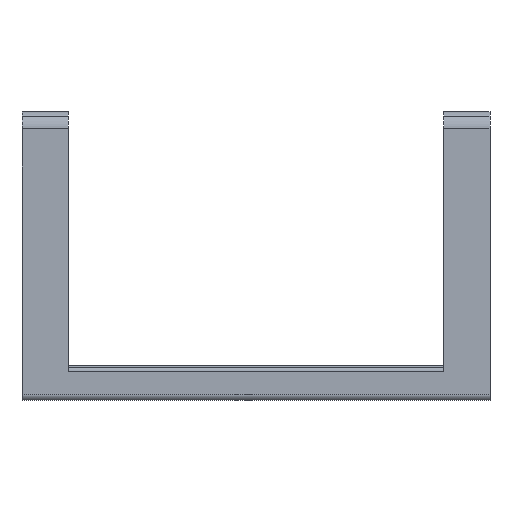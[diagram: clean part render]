
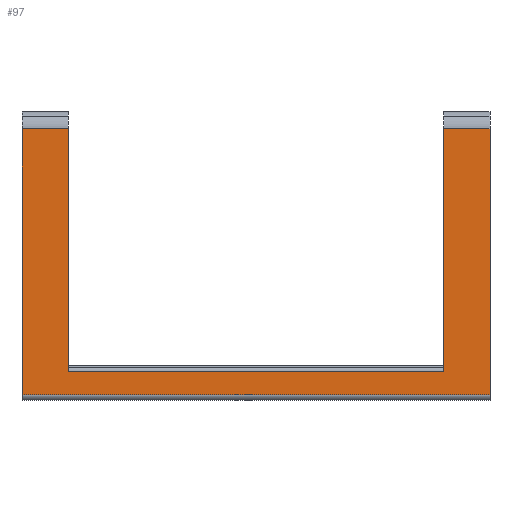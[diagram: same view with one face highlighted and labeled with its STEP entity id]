
A CAD part, front view. The second image highlights one B-rep face of the part: STEP entity #97.
In plain terms, the highlighted planar face has unit normal (0, -1, 0).
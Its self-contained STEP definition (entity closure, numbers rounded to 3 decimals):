
#97=ADVANCED_FACE('',(#227),#228,.T.);
#227=FACE_OUTER_BOUND('',#384,.T.);
#228=PLANE('',#385);
#384=EDGE_LOOP('',(#859,#860,#861,#862,#863,#864,#865,#866));
#385=AXIS2_PLACEMENT_3D('',#867,#868,#869);
#859=ORIENTED_EDGE('',*,*,#1248,.F.);
#860=ORIENTED_EDGE('',*,*,#1198,.T.);
#861=ORIENTED_EDGE('',*,*,#1250,.F.);
#862=ORIENTED_EDGE('',*,*,#1225,.F.);
#863=ORIENTED_EDGE('',*,*,#1066,.F.);
#864=ORIENTED_EDGE('',*,*,#1238,.T.);
#865=ORIENTED_EDGE('',*,*,#1251,.F.);
#866=ORIENTED_EDGE('',*,*,#1201,.T.);
#867=CARTESIAN_POINT('',(-730.0,198.552,4.919));
#868=DIRECTION('',(0.0,-1.0,0.0));
#869=DIRECTION('',(0.0,0.0,-1.0));
#1066=EDGE_CURVE('',#1267,#1269,#1270,.T.);
#1198=EDGE_CURVE('',#1501,#1499,#1502,.T.);
#1201=EDGE_CURVE('',#1506,#1504,#1507,.T.);
#1225=EDGE_CURVE('',#1269,#1542,#1543,.T.);
#1238=EDGE_CURVE('',#1267,#1559,#1561,.T.);
#1248=EDGE_CURVE('',#1501,#1504,#1576,.T.);
#1250=EDGE_CURVE('',#1542,#1499,#1578,.T.);
#1251=EDGE_CURVE('',#1506,#1559,#1579,.T.);
#1267=VERTEX_POINT('',#1596);
#1269=VERTEX_POINT('',#1598);
#1270=LINE('',#1599,#1600);
#1499=VERTEX_POINT('',#1890);
#1501=VERTEX_POINT('',#1892);
#1502=LINE('',#1893,#1894);
#1504=VERTEX_POINT('',#1896);
#1506=VERTEX_POINT('',#1898);
#1507=LINE('',#1899,#1900);
#1542=VERTEX_POINT('',#1946);
#1543=LINE('',#1947,#1948);
#1559=VERTEX_POINT('',#1970);
#1561=LINE('',#1972,#1973);
#1576=LINE('',#1992,#1993);
#1578=LINE('',#1996,#1997);
#1579=LINE('',#1998,#1999);
#1596=CARTESIAN_POINT('',(-714.0,198.552,-79.081));
#1598=CARTESIAN_POINT('',(-584.0,198.552,-79.081));
#1599=CARTESIAN_POINT('',(-657.0,198.552,-79.081));
#1600=VECTOR('',#2028,1.0);
#1890=CARTESIAN_POINT('',(-568.0,198.552,4.919));
#1892=CARTESIAN_POINT('',(-568.0,198.552,-87.081));
#1893=CARTESIAN_POINT('',(-568.0,198.552,-89.081));
#1894=VECTOR('',#2300,1.0);
#1896=CARTESIAN_POINT('',(-730.0,198.552,-87.081));
#1898=CARTESIAN_POINT('',(-730.0,198.552,4.919));
#1899=CARTESIAN_POINT('',(-730.0,198.552,10.919));
#1900=VECTOR('',#2307,1.0);
#1946=CARTESIAN_POINT('',(-584.0,198.552,4.919));
#1947=CARTESIAN_POINT('',(-584.0,198.552,4.919));
#1948=VECTOR('',#2355,1.0);
#1970=CARTESIAN_POINT('',(-714.0,198.552,4.919));
#1972=CARTESIAN_POINT('',(-714.0,198.552,4.919));
#1973=VECTOR('',#2380,1.0);
#1992=CARTESIAN_POINT('',(-730.0,198.552,-87.081));
#1993=VECTOR('',#2400,1.0);
#1996=CARTESIAN_POINT('',(-657.0,198.552,4.919));
#1997=VECTOR('',#2402,1.0);
#1998=CARTESIAN_POINT('',(-730.0,198.552,4.919));
#1999=VECTOR('',#2403,1.0);
#2028=DIRECTION('',(1.0,0.0,0.0));
#2300=DIRECTION('',(0.0,0.0,1.0));
#2307=DIRECTION('',(0.0,0.0,-1.0));
#2355=DIRECTION('',(0.0,0.0,1.0));
#2380=DIRECTION('',(0.0,0.0,1.0));
#2400=DIRECTION('',(-1.0,-0.0,-0.0));
#2402=DIRECTION('',(1.0,0.0,0.0));
#2403=DIRECTION('',(1.0,0.0,0.0));
